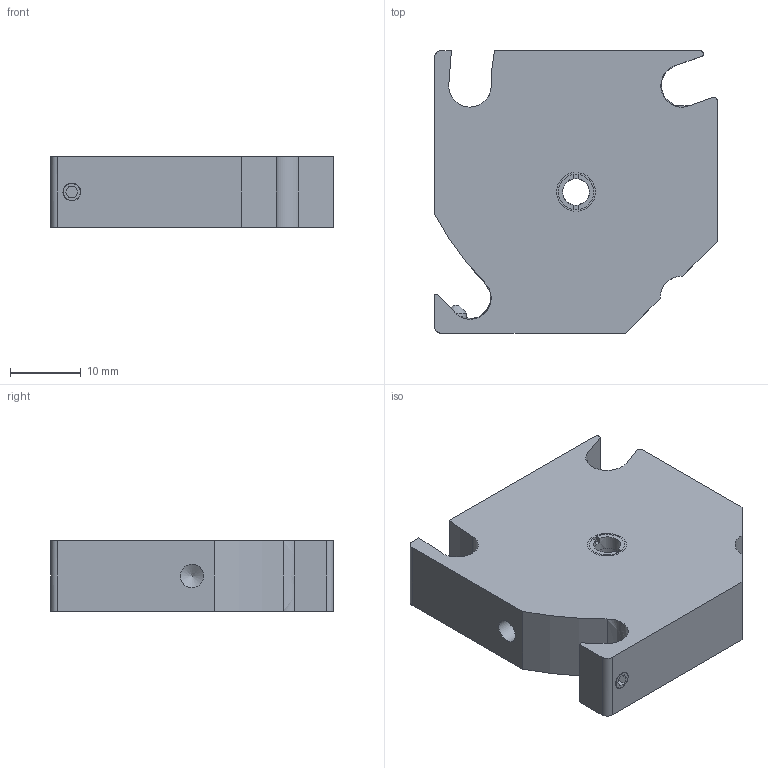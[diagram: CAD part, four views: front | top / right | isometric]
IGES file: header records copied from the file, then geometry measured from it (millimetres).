
Global section: file name: C30-SLFH-5; native system: Autodesk Inventor 2018; preprocessor: unknown; author: ka.nakajima; date: 20180726.150807; units: millimetre
Bounding box: 40 x 40 x 10 mm (x, y, z)
Volume: 13319.9 mm3; surface area: 4917.1 mm2
Topology: 1 solids, 1 shells, 101 faces, 270 edges, 179 vertices
Faces by surface type: bspline 101
